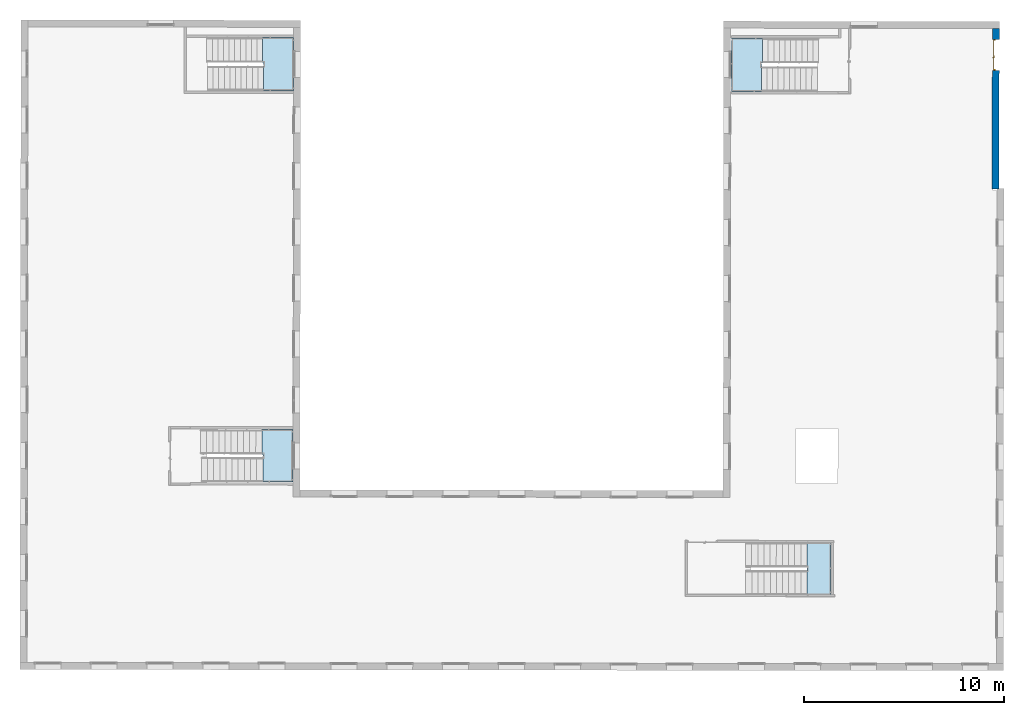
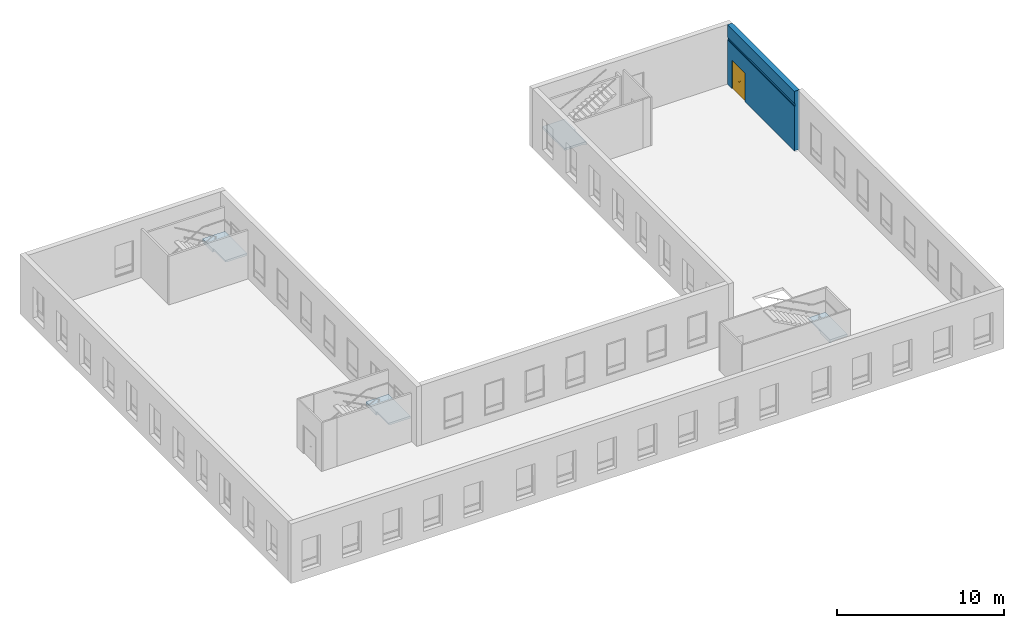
# One storey, part 33 of 35: 4 slabs, 1 door, 1 wall, 1 opening, 4 elements without a shape of their own.
"""IFC2X3 building model written with IfcOpenShell, lengths in metres."""

from ifc_helpers import new_model, entity, si_unit, converted_unit, derived_unit, direction, frame, frame_2d, origin, place, context, subcontext, project, spatial, rectangle, extrude, faceted_brep, source, transform, mapped, material, material_list, layer, layer_set, type_object, type_shapes, element, fill, aggregate, save


model = new_model("IFC2X3")

# Units and contexts
model_context = context("Model", 3, precision=1e-05, world=origin(), true_north=direction((6.123233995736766e-17, 1.0)))
body_context = subcontext(model_context, "Body", "Model", "MODEL_VIEW")
ifc_project = project(units=[si_unit("LENGTHUNIT", "METRE"), si_unit("AREAUNIT", "SQUARE_METRE"), converted_unit("PLANEANGLEUNIT", "DEGREE", entity("IfcPlaneAngleMeasure", 0.017453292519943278), si_unit("PLANEANGLEUNIT", "RADIAN"), dimensions=[0, 0, 0, 0, 0, 0, 0]), derived_unit("THERMALTRANSMITTANCEUNIT", [(si_unit("MASSUNIT", "GRAM", prefix="KILO"), 1), (si_unit("THERMODYNAMICTEMPERATUREUNIT", "KELVIN"), -1), (si_unit("TIMEUNIT", "SECOND"), -3)])], contexts=[model_context])

# Site, building, storey
site_placement = place(None, frame((1253.6752467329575, 2072.143113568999, 91.49999999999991), z_axis=(0.0, 0.0, 1.0), x_axis=(0.7237211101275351, 0.6900925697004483, 0.0)))
site = spatial("IfcSite", under=ifc_project, at=site_placement, Name="Surface", CompositionType="ELEMENT")
building_placement = place(site_placement, origin())
building = spatial("IfcBuilding", under=site, at=building_placement, CompositionType="ELEMENT")
storey_placement = place(building_placement, frame((0.0, 0.0, 3.549999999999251)))
storey = spatial("IfcBuildingStorey", under=building, at=storey_placement, Name="1-R+1", CompositionType="ELEMENT", Elevation=3.549999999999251)

# Stair, slab
type_product = type_object("IfcTypeProduct", Name="Escalier coulé sur place:Monobloc")
stair_1_placement = place(storey_placement, origin())
stair_1 = element("IfcStair", 1, at=stair_1_placement, inside=storey, type_object=type_product, Name="Escalier coulé sur place:Escalier", ObjectType="Escalier coulé sur place:Monobloc", ShapeType="HALF_TURN_STAIR")
ifc_material_1 = material(Name="<Unnamed>")
slab_type = type_object("IfcSlabType", Name="Palier monobloc:150 mm d'épaisseur", PredefinedType="LANDING")
slab_1_placement = place(stair_1_placement, frame((189.45705929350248, -0.3999894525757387, 0.0)))
slab_1 = element("IfcSlab", 2, at=slab_1_placement, type_object=slab_type, material=ifc_material_1, Name="Escalier coulé sur place:Escalier:3294087 Landing 1", ObjectType="Palier monobloc:150 mm d'épaisseur", PredefinedType="LANDING", context=body_context, shape_type="Brep", body=[
    faceted_brep([(1.0806909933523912, 0.0, 1.7749999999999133), (1.9444207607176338, 0.9035877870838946, 1.7749999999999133), (1.9480351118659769, 0.9001328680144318, 1.7749999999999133), (2.0655023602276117, 1.023020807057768, 1.7749999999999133), (2.1016458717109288, 0.9884716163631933, 1.7749999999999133), (2.1052602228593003, 0.985016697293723, 1.7749999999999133), (2.968989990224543, 1.8886044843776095, 1.7749999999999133), (2.9653756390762, 1.892059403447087, 1.7749999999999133), (2.8966576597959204, 1.9577461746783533, 1.7749999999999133), (1.8449267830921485, 2.963084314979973, 1.7749999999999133), (0.0, 1.033020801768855, 1.7749999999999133), (0.9506196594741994, 0.12433377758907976, 1.7749999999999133), (1.9480351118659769, 0.900132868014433, 1.6249999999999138), (2.0655023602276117, 1.023020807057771, 1.6249999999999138), (2.0655023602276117, 1.023020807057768, 1.650969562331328), (2.1016458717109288, 0.9884716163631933, 1.6797844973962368), (2.1052602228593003, 0.9850166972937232, 1.6826659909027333), (2.968989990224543, 1.8886044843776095, 1.6826659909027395), (2.9653756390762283, 1.892059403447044, 1.6797844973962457), (2.8966576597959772, 1.9577461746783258, 1.6249999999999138), (1.8449267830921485, 2.963084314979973, 1.6249999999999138), (0.0, 1.033020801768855, 1.6249999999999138), (2.0329278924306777, 1.0541583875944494, 1.6249999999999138), (1.9444207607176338, 0.9035877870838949, 1.6249999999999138), (1.8143494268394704, 1.0279215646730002, 1.6249999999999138), (0.9506196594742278, 0.1243337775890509, 1.6249999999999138), (1.9444207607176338, 0.9035877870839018, 1.5213023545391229), (1.0806909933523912, 0.0, 1.5213023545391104), (1.9444207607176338, 0.9035877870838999, 1.6136363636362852), (1.0806909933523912, 0.0, 1.6136363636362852)], [[[0, 1, 2, 3, 4, 5, 6, 7, 8, 9, 10, 11]], [[3, 2, 12, 13, 14]], [[4, 3, 14, 15]], [[6, 5, 16, 17]], [[7, 18, 19, 20, 9, 8]], [[10, 9, 20, 21]], [[22, 13, 12, 23, 24, 25, 21, 20, 19]], [[25, 24, 26, 27]], [[24, 23, 28, 26]], [[22, 19, 18, 17, 16, 15, 14]], [[1, 0, 29, 27, 26, 28, 23]], [[2, 1, 23, 12]], [[5, 4, 15, 16]], [[7, 6, 17, 18]], [[27, 29, 0, 11, 10, 21, 25]], [[13, 22, 14]]]),
])
aggregate(stair_1, [slab_1])

stair_2_placement = place(storey_placement, origin())
stair_2 = element("IfcStair", 3, at=stair_2_placement, inside=storey, type_object=type_product, Name="Escalier coulé sur place:Escalier", ObjectType="Escalier coulé sur place:Monobloc", ShapeType="HALF_TURN_STAIR")
slab_2_placement = place(stair_2_placement, frame((174.80201710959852, -21.045127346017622, 0.0)))
slab_2 = element("IfcSlab", 4, at=slab_2_placement, type_object=slab_type, material=ifc_material_1, Name="Escalier coulé sur place:Escalier:3294156 Landing 1", ObjectType="Palier monobloc:150 mm d'épaisseur", PredefinedType="LANDING", context=body_context, shape_type="Brep", body=[
    faceted_brep([(0.860115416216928, 1.732768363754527, 1.7749999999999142), (0.8637297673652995, 1.7293134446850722, 1.7749999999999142), (0.0, 0.8257256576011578, 1.7749999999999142), (0.1400238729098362, 0.6918783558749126, 1.7749999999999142), (0.863829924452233, 0.0, 1.7749999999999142), (2.69148211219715, 1.9119917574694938, 1.7749999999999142), (1.9025179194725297, 2.666154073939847, 1.7749999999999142), (1.8240378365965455, 2.7411723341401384, 1.7749999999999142), (1.8204234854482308, 2.7446272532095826, 1.7749999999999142), (0.9566937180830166, 1.8410394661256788, 1.7749999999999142), (0.9603080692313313, 1.837584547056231, 1.7749999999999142), (0.863829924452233, 0.0, 1.6249999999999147), (2.69148211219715, 1.9119917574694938, 1.6249999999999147), (1.9025179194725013, 2.666154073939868, 1.6249999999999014), (1.8240378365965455, 2.7411723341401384, 1.682013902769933), (1.8204234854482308, 2.7446272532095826, 1.684639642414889), (0.956693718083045, 1.8410394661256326, 1.6846396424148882), (0.9603080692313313, 1.837584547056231, 1.682013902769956), (0.9603080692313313, 1.8375845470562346, 1.6249999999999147), (0.860115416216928, 1.732768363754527, 1.6249999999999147), (0.8637297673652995, 1.7293134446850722, 1.6249999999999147), (0.8637297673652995, 1.7293134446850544, 1.6136363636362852), (0.8637297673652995, 1.7293134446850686, 1.5232760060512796), (0.0, 0.8257256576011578, 1.523276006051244), (0.0, 0.8257256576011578, 1.6136363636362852), (0.14002387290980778, 0.6918783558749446, 1.6249999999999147), (1.038788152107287, 1.762566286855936, 1.6249999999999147), (1.0037536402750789, 1.5954661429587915, 1.6249999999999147)], [[[0, 1, 2, 3, 4, 5, 6, 7, 8, 9, 10]], [[5, 4, 11, 12]], [[5, 12, 13, 14, 7, 6]], [[8, 7, 14, 15]], [[10, 9, 16, 17]], [[0, 10, 17, 18, 19]], [[1, 0, 19, 20]], [[2, 1, 20, 21, 22, 23, 24]], [[2, 24, 23, 25, 11, 4, 3]], [[9, 8, 15, 16]], [[18, 26, 13, 12, 11, 25, 27, 20, 19]], [[26, 18, 17]], [[27, 25, 23, 22]], [[20, 27, 22, 21]], [[13, 26, 17, 16, 15, 14]]]),
])
aggregate(stair_2, [slab_2])

stair_3_placement = place(storey_placement, origin())
stair_3 = element("IfcStair", 5, at=stair_3_placement, inside=storey, type_object=type_product, Name="Escalier coulé sur place:Escalier", ObjectType="Escalier coulé sur place:Monobloc", ShapeType="HALF_TURN_STAIR")
slab_3_placement = place(stair_3_placement, frame((158.99727048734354, 1.6290692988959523, 0.0)))
slab_3 = element("IfcSlab", 6, at=slab_3_placement, type_object=slab_type, material=ifc_material_1, Name="Escalier coulé sur place:Escalier:3294221 Landing 1", ObjectType="Palier monobloc:150 mm d'épaisseur", PredefinedType="LANDING", context=body_context, shape_type="Brep", body=[
    faceted_brep([(1.7932174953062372, 2.9818167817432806, 1.7749999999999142), (0.9294877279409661, 2.0782289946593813, 1.7749999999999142), (0.9658322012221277, 2.043487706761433, 1.7749999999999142), (0.8673441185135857, 1.9404547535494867, 1.7749999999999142), (0.8637297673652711, 1.943909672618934, 1.7749999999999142), (0.0, 1.0403218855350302, 1.7749999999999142), (0.0036143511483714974, 1.0368669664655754, 1.7749999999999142), (0.08209443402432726, 0.961848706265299, 1.7749999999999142), (1.0883289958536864, 0.0, 1.7749999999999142), (2.914276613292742, 1.91020852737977, 1.7749999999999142), (1.933241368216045, 2.847969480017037, 1.7749999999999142), (1.7932174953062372, 2.9818167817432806, 1.6136363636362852), (1.7932174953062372, 2.981816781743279, 1.5232760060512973), (0.9294877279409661, 2.0782289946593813, 1.5232760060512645), (0.9294877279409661, 2.0782289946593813, 1.6136363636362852), (1.069511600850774, 1.9443816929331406, 1.6249999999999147), (0.9658322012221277, 2.043487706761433, 1.6249999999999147), (0.8673441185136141, 1.9404547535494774, 1.6249999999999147), (0.8673441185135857, 1.9404547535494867, 1.682013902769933), (0.8637297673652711, 1.943909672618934, 1.68463964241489), (0.0, 1.0403218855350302, 1.684639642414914), (0.0036143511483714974, 1.0368669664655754, 1.6820139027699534), (0.08209443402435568, 0.9618487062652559, 1.6249999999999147), (1.0883289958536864, 0.0, 1.6249999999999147), (2.914276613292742, 1.91020852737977, 1.6249999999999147), (1.933241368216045, 2.8479694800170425, 1.6249999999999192), (0.9458242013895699, 1.8654364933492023, 1.6249999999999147)], [[[0, 1, 2, 3, 4, 5, 6, 7, 8, 9, 10]], [[1, 0, 11, 12, 13, 14]], [[2, 1, 14, 13, 15, 16]], [[3, 2, 16, 17, 18]], [[4, 3, 18, 19]], [[5, 4, 19, 20]], [[6, 5, 20, 21]], [[6, 21, 22, 23, 8, 7]], [[9, 8, 23, 24]], [[12, 11, 0, 10, 9, 24, 25]], [[26, 17, 16, 15, 25, 24, 23, 22]], [[17, 26, 18]], [[25, 15, 13, 12]], [[26, 22, 21, 20, 19, 18]]]),
])
aggregate(stair_3, [slab_3])

stair_4_placement = place(storey_placement, origin())
stair_4 = element("IfcStair", 7, at=stair_4_placement, inside=storey, type_object=type_product, Name="Escalier coulé sur place:Escalier", ObjectType="Escalier coulé sur place:Monobloc", ShapeType="HALF_TURN_STAIR")
slab_4_placement = place(stair_4_placement, frame((172.53105286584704, 15.772486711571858, 0.0)))
slab_4 = element("IfcSlab", 8, at=slab_4_placement, type_object=slab_type, material=ifc_material_1, Name="Escalier coulé sur place:Escalier:3294290 Landing 1", ObjectType="Palier monobloc:150 mm d'épaisseur", PredefinedType="LANDING", context=body_context, shape_type="Brep", body=[
    faceted_brep([(1.8160119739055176, 2.997633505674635, 1.7749999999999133), (0.952282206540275, 2.094045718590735, 1.7749999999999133), (0.9848113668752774, 2.0629514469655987, 1.7749999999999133), (0.867344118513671, 1.9400635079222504, 1.7749999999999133), (0.8637297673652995, 1.943518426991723, 1.7749999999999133), (0.0, 1.0399306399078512, 1.7749999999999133), (0.003614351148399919, 1.0364757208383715, 1.7749999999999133), (0.07233233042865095, 0.9707889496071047, 1.7749999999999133), (1.0879196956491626, 0.0, 1.7749999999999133), (2.9328464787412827, 1.9300635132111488, 1.7749999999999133), (1.9460833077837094, 2.8732997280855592, 1.7749999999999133), (1.8160119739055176, 2.997633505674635, 1.6136363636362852), (1.8160119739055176, 2.9976335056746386, 1.5213023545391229), (0.952282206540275, 2.094045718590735, 1.5213023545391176), (0.952282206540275, 2.094045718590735, 1.6136363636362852), (1.0823535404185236, 1.9697119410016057, 1.6249999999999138), (0.9848113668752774, 2.0629514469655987, 1.6249999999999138), (0.867344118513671, 1.9400635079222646, 1.6249999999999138), (0.867344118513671, 1.9400635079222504, 1.679784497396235), (0.8637297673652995, 1.943518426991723, 1.6826659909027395), (0.0, 1.0399306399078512, 1.6826659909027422), (0.003614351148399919, 1.0364757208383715, 1.679784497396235), (0.07233233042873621, 0.9707889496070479, 1.6249999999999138), (1.0879196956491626, 0.0, 1.6249999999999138), (2.9328464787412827, 1.9300635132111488, 1.6249999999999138), (1.9460833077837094, 2.873299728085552, 1.6249999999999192), (0.936062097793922, 1.8743767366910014, 1.6249999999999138)], [[[0, 1, 2, 3, 4, 5, 6, 7, 8, 9, 10]], [[1, 0, 11, 12, 13, 14]], [[2, 1, 14, 13, 15, 16]], [[3, 2, 16, 17, 18]], [[4, 3, 18, 19]], [[5, 4, 19, 20]], [[6, 5, 20, 21]], [[6, 21, 22, 23, 8, 7]], [[9, 8, 23, 24]], [[12, 11, 0, 10, 9, 24, 25]], [[26, 17, 16, 15, 25, 24, 23, 22]], [[17, 26, 18]], [[25, 15, 13, 12]], [[26, 22, 21, 20, 19, 18]]]),
])
aggregate(stair_4, [slab_4])

# Wall, opening, door
ifc_material_2 = material(Name="OMD_Béton blanc")
ifc_layer = layer(ifc_material_2, 0.35)
ifc_layer_set = layer_set([ifc_layer], Name="Mur de base:MUR 35")
wall_type = type_object("IfcWallType", Name="Mur de base:MUR 35", PredefinedType="STANDARD", material=ifc_layer_set)
wall_placement = place(storey_placement, frame((201.19888071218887, -6.215867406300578, 0.0), z_axis=(0.0, 0.0, 1.0), x_axis=(-0.6909838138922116, -0.7228702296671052, 0.0)))
wall = element("IfcWall", 9, at=wall_placement, inside=storey, type_object=wall_type, Name="Mur de base:MUR 35", ObjectType="Mur de base:MUR 35", context=body_context, shape_type="Brep", body=[
    faceted_brep([(2.0950961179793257, -0.17499999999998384, 0.0), (7.862543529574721, -0.17499999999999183, 0.0), (8.037543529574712, -0.1749999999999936, 0.0), (8.037543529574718, -0.1749999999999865, 3.250000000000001), (0.0, -0.17499999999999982, 3.250000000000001), (0.0, -0.17499999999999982, 0.0), (0.0009442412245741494, -0.1749999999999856, 0.0), (0.5450961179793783, -0.17499999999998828, 0.0), (0.5450961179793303, -0.1749999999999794, 2.085000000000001), (2.0950961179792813, -0.17499999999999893, 2.085000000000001), (8.037543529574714, 0.17500000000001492, 4.350000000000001), (8.037543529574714, 0.17500000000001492, 0.0), (7.862543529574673, 0.17500000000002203, 0.0), (2.095096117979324, 0.17500000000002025, 0.0), (2.095096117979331, 0.17500000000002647, 2.085000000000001), (0.5450961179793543, 0.17500000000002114, 2.085000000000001), (0.5450961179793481, 0.17500000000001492, 0.0), (0.0, 0.17500000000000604, 0.0), (0.0, 0.17500000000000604, 4.350000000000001), (8.037543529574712, -0.1749999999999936, 4.350000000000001), (8.037543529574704, -0.1750000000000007, 3.450000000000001), (8.037543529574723, -0.12499999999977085, 3.450000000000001), (8.037543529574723, -0.12499999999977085, 3.250000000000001), (0.0, -0.17499999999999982, 4.350000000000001), (0.0, -0.1249999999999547, 3.250000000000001), (0.0, -0.12499999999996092, 3.450000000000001), (0.0, -0.17499999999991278, 3.450000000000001)], [[[0, 1, 2, 3, 4, 5, 6, 7, 8, 9]], [[10, 11, 12, 13, 14, 15, 16, 17, 18]], [[11, 10, 19, 20, 21, 22, 3, 2]], [[23, 19, 10, 18]], [[11, 2, 1, 0, 13, 12]], [[9, 14, 13, 0]], [[14, 9, 8, 15]], [[15, 8, 7, 16]], [[22, 24, 4, 3]], [[25, 21, 20, 26]], [[24, 22, 21, 25]], [[18, 17, 5, 4, 24, 25, 26, 23]], [[7, 6, 5, 17, 16]], [[19, 23, 26, 20]]]),
])
opening_placement = place(wall_placement, frame((2.095096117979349, 0.1750000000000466, 0.0)))
opening = element("IfcOpeningElement", 10, at=opening_placement, cuts=wall, Name="OMD_Porte 2V tunnel:140x204:1", ObjectType="Opening", context=body_context, shape_type="SweptSolid", body=[
    extrude(rectangle(XDim=2.085, YDim=1.5499999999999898, at=frame_2d((1.0425, 0.7749999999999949), x_axis=(1.0, 0.0))), frame((0.0, 0.0, 0.0), z_axis=(0.0, -1.0, 0.0), x_axis=(0.0, 0.0, 1.0)), (0.0, 0.0, 1.0), 0.35),
])
ifc_material_3 = material(Name="Porte - Poignée")
ifc_material_4 = material(Name="OMD_Bois")
ifc_material_list = material_list([ifc_material_1, ifc_material_3, ifc_material_4])
door_style = type_object("IfcDoorStyle", Name="OMD_Porte 2V tunnel:140x204", ConstructionType="NOTDEFINED", OperationType="NOTDEFINED", ParameterTakesPrecedence=False, Sizeable=False, material=ifc_material_list)
shared_shape = source(origin(), body_context, "Body", "Brep", [
    faceted_brep([(1.504999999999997, 0.08000000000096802, 0.0), (1.504999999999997, 0.050000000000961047, 0.0), (0.9749999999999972, 0.050000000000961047, 0.0), (0.9749999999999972, 0.08000000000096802, 0.0), (1.504999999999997, 0.08000000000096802, 2.04), (1.504999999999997, 0.050000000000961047, 2.04), (0.9749999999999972, 0.050000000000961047, 2.04), (0.9749999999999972, 0.08000000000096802, 2.04)], [[[0, 1, 2, 3]], [[4, 5, 1, 0]], [[5, 6, 2, 1]], [[6, 7, 3, 2]], [[7, 4, 0, 3]], [[4, 7, 6, 5]]]),
    faceted_brep([(0.9220252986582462, 0.08500000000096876, 1.0077804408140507), (0.91797470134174, 0.08500000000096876, 1.007780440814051), (0.9139999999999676, 0.08500000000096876, 1.00699999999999), (0.9139999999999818, 0.08500000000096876, 0.9930000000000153), (0.9179747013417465, 0.08500000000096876, 0.9922195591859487), (0.9220252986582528, 0.08500000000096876, 0.9922195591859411), (0.9260000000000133, 0.08500000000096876, 0.9929999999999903), (0.9260000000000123, 0.08500000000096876, 1.006999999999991), (0.9139999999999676, 0.10748520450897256, 1.00699999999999), (0.9139999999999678, 0.10748520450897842, 0.9930000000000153), (0.9179747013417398, 0.10913157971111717, 1.007780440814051), (0.922025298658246, 0.11080939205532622, 1.0077804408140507), (0.9058389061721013, 0.12699578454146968, 1.0077804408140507), (0.9041610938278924, 0.12294518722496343, 1.007780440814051), (0.8207931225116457, 0.12294518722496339, 1.0077804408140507), (0.8191153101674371, 0.12699578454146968, 1.0077804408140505), (0.8114510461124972, 0.11933152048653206, 1.0077804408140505), (0.8143152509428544, 0.11646731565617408, 1.0077804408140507), (0.9260000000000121, 0.11245576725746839, 1.006999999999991), (0.9260000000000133, 0.11245576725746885, 0.9929999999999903), (0.9220252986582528, 0.11080939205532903, 0.9922195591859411), (0.9179747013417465, 0.10913157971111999, 0.9922195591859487), (0.9041610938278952, 0.12294518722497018, 0.9922195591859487), (0.905838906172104, 0.12699578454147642, 0.9922195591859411), (0.8191153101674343, 0.1269957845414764, 0.9922195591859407), (0.8207931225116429, 0.12294518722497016, 0.9922195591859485), (0.8143152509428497, 0.1164673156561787, 0.9922195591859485), (0.8114510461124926, 0.11933152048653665, 0.9922195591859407), (0.9025147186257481, 0.11897048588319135, 1.00699999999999), (0.9025147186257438, 0.11897048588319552, 0.9930000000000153), (0.9074852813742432, 0.1309704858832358, 1.006999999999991), (0.9074852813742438, 0.13097048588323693, 0.9929999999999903), (0.862477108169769, 0.11897048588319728, 1.0069999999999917), (0.8224394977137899, 0.11897048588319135, 1.0069999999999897), (0.8224394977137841, 0.11897048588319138, 0.9930000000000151), (0.8624771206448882, 0.11897048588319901, 0.9930000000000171), (0.8624771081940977, 0.12512492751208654, 1.0078781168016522), (0.8573994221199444, 0.13097048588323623, 1.0069999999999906), (0.8174689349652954, 0.1309704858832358, 1.0069999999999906), (0.8675547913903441, 0.1309704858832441, 0.9929999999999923), (0.8174689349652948, 0.13097048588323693, 0.99299999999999), (0.8624771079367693, 0.12512492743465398, 0.9921218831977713), (0.8086405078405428, 0.12214205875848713, 1.0069999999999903), (0.8086405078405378, 0.1221420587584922, 0.9929999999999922), (0.8171257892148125, 0.11365677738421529, 0.9930000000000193), (0.8171257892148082, 0.11365677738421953, 1.0069999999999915)], [[[0, 1, 2, 3, 4, 5, 6, 7]], [[8, 9, 3, 2]], [[1, 10, 8, 2]], [[1, 0, 11, 12, 13, 10]], [[14, 15, 16, 17]], [[7, 18, 11, 0]], [[18, 7, 6, 19]], [[6, 5, 20, 19]], [[5, 4, 21, 22, 23, 20]], [[24, 25, 26, 27]], [[4, 3, 9, 21]], [[28, 29, 9, 8]], [[8, 10, 13, 28]], [[18, 30, 12, 11]], [[31, 30, 18, 19]], [[19, 20, 23, 31]], [[21, 9, 29, 22]], [[29, 28, 32, 33, 34, 35]], [[36, 32, 13]], [[37, 38, 15]], [[37, 12, 30]], [[36, 12, 37]], [[14, 32, 36]], [[36, 15, 14]], [[28, 13, 32]], [[32, 14, 33]], [[12, 36, 13]], [[15, 36, 37]], [[30, 31, 39, 40, 38, 37]], [[23, 41, 39]], [[24, 39, 41]], [[39, 31, 23]], [[39, 24, 40]], [[22, 35, 41]], [[41, 23, 22]], [[41, 35, 25]], [[35, 22, 29]], [[34, 25, 35]], [[24, 41, 25]], [[17, 16, 42, 43, 27, 26, 44, 45]], [[45, 44, 34, 33]], [[33, 14, 17, 45]], [[15, 38, 42, 16]], [[43, 42, 38, 40]], [[24, 27, 43, 40]], [[34, 44, 26, 25]]]),
    faceted_brep([(0.9179747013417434, 0.045000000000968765, 1.007780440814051), (0.9220252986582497, 0.045000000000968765, 1.0077804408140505), (0.9260000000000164, 0.045000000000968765, 1.0069999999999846), (0.9260000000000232, 0.045000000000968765, 0.9929999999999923), (0.9220252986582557, 0.045000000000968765, 0.992219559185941), (0.9179747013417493, 0.045000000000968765, 0.9922195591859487), (0.9139999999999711, 0.045000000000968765, 0.9930000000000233), (0.9139999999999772, 0.045000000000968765, 1.006999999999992), (0.92202529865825, 0.018995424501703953, 1.0077804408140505), (0.9260000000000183, 0.01734904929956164, 1.0069999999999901), (0.9179747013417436, 0.020673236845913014, 1.007780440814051), (0.904298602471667, 0.006997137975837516, 1.007780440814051), (0.9059764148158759, 0.0029465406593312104, 1.0077804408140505), (0.8191424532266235, 0.002946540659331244, 1.0077804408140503), (0.8208202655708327, 0.006997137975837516, 1.0077804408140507), (0.8143423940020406, 0.013475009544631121, 1.0077804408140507), (0.8114781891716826, 0.010610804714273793, 1.0077804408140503), (0.9139999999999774, 0.022319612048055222, 1.006999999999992), (0.9139999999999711, 0.022319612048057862, 0.9930000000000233), (0.9179747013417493, 0.02067323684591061, 0.9922195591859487), (0.9220252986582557, 0.018995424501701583, 0.992219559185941), (0.9059764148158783, 0.002946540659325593, 0.992219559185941), (0.9042986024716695, 0.006997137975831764, 0.9922195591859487), (0.8208202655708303, 0.006997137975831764, 0.9922195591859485), (0.819142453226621, 0.002946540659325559, 0.9922195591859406), (0.8114781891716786, 0.010610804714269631, 0.9922195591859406), (0.8143423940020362, 0.013475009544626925, 0.9922195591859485), (0.9260000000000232, 0.017349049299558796, 0.9929999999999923), (0.9076227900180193, -0.001028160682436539, 1.0069999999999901), (0.902652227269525, 0.010971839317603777, 1.006999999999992), (0.9026522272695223, 0.010971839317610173, 0.9930000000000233), (0.9076227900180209, -0.0010281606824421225, 0.9929999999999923), (0.8625594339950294, 0.0048171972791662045, 1.0078781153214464), (0.86769230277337, -0.0010281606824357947, 1.0069999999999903), (0.817496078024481, -0.0010281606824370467, 1.00699999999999), (0.8625594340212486, 0.010971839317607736, 1.0069999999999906), (0.8224666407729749, 0.010971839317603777, 1.0069999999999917), (0.8625594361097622, 0.010971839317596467, 0.9930000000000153), (0.8224666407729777, 0.010971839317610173, 0.9930000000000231), (0.862559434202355, 0.004817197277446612, 0.9921218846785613), (0.8574265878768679, -0.0010281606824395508, 0.9929999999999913), (0.8174960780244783, -0.0010281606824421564, 0.9929999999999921), (0.8171529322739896, 0.016285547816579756, 0.9930000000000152), (0.8086676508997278, 0.007800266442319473, 0.9929999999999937), (0.8086676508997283, 0.0078002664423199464, 1.0069999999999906), (0.8171529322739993, 0.016285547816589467, 1.0069999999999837)], [[[0, 1, 2, 3, 4, 5, 6, 7]], [[2, 1, 8, 9]], [[1, 0, 10, 11, 12, 8]], [[13, 14, 15, 16]], [[0, 7, 17, 10]], [[18, 17, 7, 6]], [[5, 19, 18, 6]], [[5, 4, 20, 21, 22, 19]], [[23, 24, 25, 26]], [[3, 27, 20, 4]], [[9, 27, 3, 2]], [[9, 8, 12, 28]], [[10, 17, 29, 11]], [[30, 29, 17, 18]], [[18, 19, 22, 30]], [[20, 27, 31, 21]], [[28, 31, 27, 9]], [[12, 32, 33]], [[13, 33, 32]], [[33, 28, 12]], [[33, 13, 34]], [[11, 35, 32]], [[32, 12, 11]], [[32, 35, 14]], [[35, 11, 29]], [[36, 14, 35]], [[13, 32, 14]], [[29, 30, 37, 38, 36, 35]], [[39, 37, 22]], [[40, 41, 24]], [[40, 21, 31]], [[39, 21, 40]], [[23, 37, 39]], [[39, 24, 23]], [[30, 22, 37]], [[37, 23, 38]], [[21, 39, 22]], [[24, 39, 40]], [[31, 28, 33, 34, 41, 40]], [[42, 26, 25, 43, 44, 16, 15, 45]], [[13, 16, 44, 34]], [[36, 45, 15, 14]], [[42, 45, 36, 38]], [[38, 23, 26, 42]], [[24, 41, 43, 25]], [[44, 43, 41, 34]]]),
    faceted_brep([(0.9199999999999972, 0.08000000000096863, 0.8646410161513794), (0.9303527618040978, 0.08000000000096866, 0.866003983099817), (0.9399999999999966, 0.08000000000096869, 0.8700000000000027), (0.9399999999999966, 0.08000000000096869, 1.0800000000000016), (0.9303527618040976, 0.08000000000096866, 1.0839960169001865), (0.919999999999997, 0.08000000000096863, 1.0853589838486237), (0.9096472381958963, 0.08000000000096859, 1.0839960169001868), (0.8999999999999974, 0.08000000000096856, 1.0800000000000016), (0.8999999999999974, 0.08000000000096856, 0.8700000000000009), (0.9096472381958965, 0.08000000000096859, 0.8660039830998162), (0.919999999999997, 0.08500000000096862, 1.0853589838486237), (0.9303527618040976, 0.08500000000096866, 1.0839960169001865), (0.9399999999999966, 0.08500000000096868, 1.0800000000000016), (0.9399999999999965, 0.08500000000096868, 0.8700000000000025), (0.9303527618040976, 0.08500000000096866, 0.866003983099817), (0.9199999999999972, 0.08500000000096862, 0.8646410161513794), (0.9096472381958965, 0.08500000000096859, 0.8660039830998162), (0.8999999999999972, 0.08500000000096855, 0.8700000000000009), (0.8999999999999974, 0.08500000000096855, 1.0800000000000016), (0.9096472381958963, 0.08500000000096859, 1.0839960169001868)], [[[0, 1, 2, 3, 4, 5, 6, 7, 8, 9]], [[10, 11, 12, 13, 14, 15, 16, 17, 18, 19]], [[6, 19, 18, 7]], [[5, 10, 19, 6]], [[4, 11, 10, 5]], [[4, 3, 12, 11]], [[12, 3, 2, 13]], [[1, 14, 13, 2]], [[0, 15, 14, 1]], [[9, 16, 15, 0]], [[9, 8, 17, 16]], [[17, 8, 7, 18]]]),
    faceted_brep([(0.9199999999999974, 0.04500000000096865, 0.8646410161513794), (0.9303527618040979, 0.04500000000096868, 0.8660039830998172), (0.9399999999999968, 0.0450000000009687, 0.8700000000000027), (0.9399999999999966, 0.0450000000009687, 1.0800000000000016), (0.9303527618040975, 0.04500000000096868, 1.0839960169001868), (0.9199999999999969, 0.04500000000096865, 1.0853589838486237), (0.9096472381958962, 0.04500000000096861, 1.0839960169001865), (0.8999999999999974, 0.04500000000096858, 1.0800000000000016), (0.8999999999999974, 0.04500000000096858, 0.8700000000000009), (0.9096472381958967, 0.04500000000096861, 0.8660039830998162), (0.9399999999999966, 0.05000000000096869, 1.0800000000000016), (0.9399999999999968, 0.05000000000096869, 0.8700000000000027), (0.9303527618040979, 0.05000000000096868, 0.8660039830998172), (0.9199999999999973, 0.050000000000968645, 0.8646410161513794), (0.9096472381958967, 0.05000000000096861, 0.8660039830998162), (0.8999999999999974, 0.050000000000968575, 0.8700000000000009), (0.8999999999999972, 0.050000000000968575, 1.0800000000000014), (0.9096472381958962, 0.05000000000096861, 1.0839960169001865), (0.9199999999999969, 0.050000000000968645, 1.0853589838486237), (0.9303527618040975, 0.05000000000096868, 1.0839960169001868)], [[[0, 1, 2, 3, 4, 5, 6, 7, 8, 9]], [[10, 11, 12, 13, 14, 15, 16, 17, 18, 19]], [[1, 12, 11, 2]], [[0, 13, 12, 1]], [[9, 14, 13, 0]], [[9, 8, 15, 14]], [[15, 8, 7, 16]], [[6, 17, 16, 7]], [[5, 18, 17, 6]], [[4, 19, 18, 5]], [[4, 3, 10, 19]], [[10, 3, 2, 11]]]),
    faceted_brep([(0.9750000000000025, 0.08000000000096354, 0.0), (0.975, 0.05000000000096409, 0.0), (0.04500000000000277, 0.05000000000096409, 0.0), (0.04500000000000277, 0.08000000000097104, 0.0), (0.9750000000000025, 0.08000000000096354, 2.04), (0.9749999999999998, 0.05000000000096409, 2.04), (0.04500000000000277, 0.05000000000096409, 2.04), (0.04500000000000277, 0.08000000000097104, 2.04)], [[[0, 1, 2, 3]], [[4, 5, 1, 0]], [[5, 6, 2, 1]], [[6, 7, 3, 2]], [[7, 4, 0, 3]], [[4, 7, 6, 5]]]),
    faceted_brep([(1.5499999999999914, 0.05000000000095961, 0.0), (1.5049999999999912, 0.05000000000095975, 0.0), (1.5049999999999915, 0.08000000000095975, 0.0), (1.4899999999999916, 0.08000000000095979, 0.0), (1.4899999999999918, 0.1500000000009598, 0.0), (1.549999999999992, 0.1500000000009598, 0.0), (1.5499999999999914, 0.050000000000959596, 2.085), (0.0, 0.0500000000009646, 2.085), (0.0, 0.05000000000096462, 0.0), (0.04499999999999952, 0.05000000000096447, 0.0), (0.04499999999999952, 0.05000000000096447, 2.039999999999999), (1.5049999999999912, 0.05000000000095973, 2.0399999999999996), (1.5049999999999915, 0.08000000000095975, 2.0399999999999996), (0.04499999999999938, 0.08000000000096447, 2.0399999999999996), (0.04499999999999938, 0.08000000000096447, 0.0), (0.05999999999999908, 0.08000000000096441, 0.0), (0.05999999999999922, 0.08000000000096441, 2.0249999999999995), (1.4899999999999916, 0.08000000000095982, 2.0249999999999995), (1.4899999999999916, 0.1500000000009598, 2.0249999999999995), (0.05999999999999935, 0.1500000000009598, 2.0249999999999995), (0.05999999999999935, 0.1500000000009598, 0.0), (0.0, 0.1500000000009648, 0.0), (0.0, 0.1500000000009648, 2.085), (1.549999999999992, 0.1500000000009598, 2.085)], [[[0, 1, 2, 3, 4, 5]], [[1, 0, 6, 7, 8, 9, 10, 11]], [[2, 1, 11, 12]], [[3, 2, 12, 13, 14, 15, 16, 17]], [[4, 3, 17, 18]], [[5, 4, 18, 19, 20, 21, 22, 23]], [[0, 5, 23, 6]], [[7, 22, 21, 8]], [[8, 21, 20, 15, 14, 9]], [[13, 10, 9, 14]], [[19, 16, 15, 20]], [[12, 11, 10, 13]], [[18, 17, 16, 19]], [[6, 23, 22, 7]]]),
])
type_shapes(door_style, [shared_shape])
door_placement = place(opening_placement, frame((-1.5499999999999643, -0.3500000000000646, 0.0)))
door = element("IfcDoor", 11, at=door_placement, inside=storey, type_object=door_style, material=ifc_material_list, Name="OMD_Porte 2V tunnel:140x204", ObjectType="OMD_Porte 2V tunnel:140x204", OverallHeight=2.085, OverallWidth=1.550000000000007, context=body_context, shape_type="MappedRepresentation", body=[
    mapped(shared_shape, transform((0.0, 0.0, 0.0), scale=1.0)),
])
fill(opening, door)

save(model, "model.ifc")
